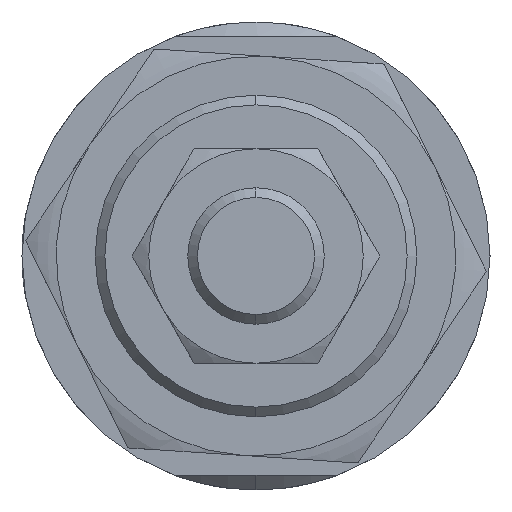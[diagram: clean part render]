
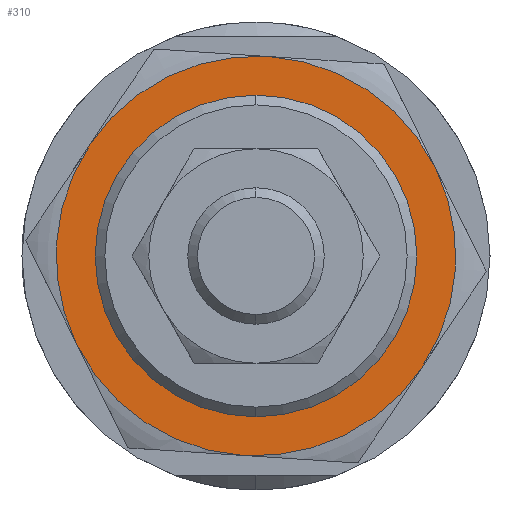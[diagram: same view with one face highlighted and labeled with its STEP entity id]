
A CAD part, left-side view. The second image highlights one B-rep face of the part: STEP entity #310.
In plain terms, the highlighted planar face has unit normal (-1, 0, 0) as drawn and (0, 0, -1) by its records, which use the part's own axes.
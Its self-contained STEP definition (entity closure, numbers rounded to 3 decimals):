
#69 = VERTEX_POINT ( 'NONE', #1063 ) ;
#127 = AXIS2_PLACEMENT_3D ( 'NONE', #2994, #1468, #964 ) ;
#199 = EDGE_LOOP ( 'NONE', ( #2132, #2247, #2349, #1372, #1181, #367 ) ) ;
#310 = ADVANCED_FACE ( 'NONE', ( #1007, #3006 ), #1910, .F. ) ;
#313 = EDGE_CURVE ( 'NONE', #478, #2665, #936, .T. ) ;
#367 = ORIENTED_EDGE ( 'NONE', *, *, #1753, .F. ) ;
#370 = CARTESIAN_POINT ( 'NONE',  ( -10.25, 17.754, -5.5 ) ) ;
#390 = AXIS2_PLACEMENT_3D ( 'NONE', #3166, #1962, #1439 ) ;
#407 = CARTESIAN_POINT ( 'NONE',  ( 15.5, 0., -5.5 ) ) ;
#438 = CIRCLE ( 'NONE', #127, 20.5 ) ;
#463 = ORIENTED_EDGE ( 'NONE', *, *, #1499, .T. ) ;
#478 = VERTEX_POINT ( 'NONE', #1826 ) ;
#518 = CARTESIAN_POINT ( 'NONE',  ( -20.5, 0., -5.5 ) ) ;
#628 = DIRECTION ( 'NONE',  ( 1., 0., 0. ) ) ;
#667 = AXIS2_PLACEMENT_3D ( 'NONE', #2823, #1014, #992 ) ;
#702 = VERTEX_POINT ( 'NONE', #407 ) ;
#719 = EDGE_CURVE ( 'NONE', #1216, #2605, #2931, .T. ) ;
#763 = CIRCLE ( 'NONE', #1214, 20.5 ) ;
#788 = CARTESIAN_POINT ( 'NONE',  ( -10.25, -17.754, -5.5 ) ) ;
#854 = EDGE_CURVE ( 'NONE', #954, #1216, #763, .T. ) ;
#905 = DIRECTION ( 'NONE',  ( 1., 0., 0. ) ) ;
#936 = CIRCLE ( 'NONE', #1553, 20.5 ) ;
#947 = CARTESIAN_POINT ( 'NONE',  ( 0., 0., -5.5 ) ) ;
#954 = VERTEX_POINT ( 'NONE', #370 ) ;
#964 = DIRECTION ( 'NONE',  ( 1., 0., 0. ) ) ;
#992 = DIRECTION ( 'NONE',  ( 1., 0., 0. ) ) ;
#1001 = EDGE_CURVE ( 'NONE', #2605, #69, #2777, .T. ) ;
#1003 = CIRCLE ( 'NONE', #1929, 15.5 ) ;
#1007 = FACE_BOUND ( 'NONE', #2060, .T. ) ;
#1014 = DIRECTION ( 'NONE',  ( 0., 0., 1. ) ) ;
#1063 = CARTESIAN_POINT ( 'NONE',  ( 10.25, -17.754, -5.5 ) ) ;
#1089 = EDGE_CURVE ( 'NONE', #702, #1959, #3155, .T. ) ;
#1118 = EDGE_CURVE ( 'NONE', #69, #478, #438, .T. ) ;
#1181 = ORIENTED_EDGE ( 'NONE', *, *, #854, .F. ) ;
#1187 = ORIENTED_EDGE ( 'NONE', *, *, #1089, .T. ) ;
#1191 = CARTESIAN_POINT ( 'NONE',  ( 0., 0., -5.5 ) ) ;
#1208 = DIRECTION ( 'NONE',  ( 0., 0., 1. ) ) ;
#1214 = AXIS2_PLACEMENT_3D ( 'NONE', #3303, #3034, #1513 ) ;
#1216 = VERTEX_POINT ( 'NONE', #518 ) ;
#1372 = ORIENTED_EDGE ( 'NONE', *, *, #719, .F. ) ;
#1410 = DIRECTION ( 'NONE',  ( 0., 0., 1. ) ) ;
#1432 = DIRECTION ( 'NONE',  ( 1., 0., 0. ) ) ;
#1439 = DIRECTION ( 'NONE',  ( 1., 0., 0. ) ) ;
#1468 = DIRECTION ( 'NONE',  ( 0., 0., 1. ) ) ;
#1499 = EDGE_CURVE ( 'NONE', #1959, #702, #1003, .T. ) ;
#1513 = DIRECTION ( 'NONE',  ( 1., 0., 0. ) ) ;
#1553 = AXIS2_PLACEMENT_3D ( 'NONE', #2937, #1410, #628 ) ;
#1753 = EDGE_CURVE ( 'NONE', #2665, #954, #2492, .T. ) ;
#1770 = AXIS2_PLACEMENT_3D ( 'NONE', #2442, #2943, #905 ) ;
#1826 = CARTESIAN_POINT ( 'NONE',  ( 20.5, 0., -5.5 ) ) ;
#1910 = PLANE ( 'NONE',  #1770 ) ;
#1929 = AXIS2_PLACEMENT_3D ( 'NONE', #2436, #3177, #2692 ) ;
#1932 = CARTESIAN_POINT ( 'NONE',  ( -15.5, 0., -5.5 ) ) ;
#1959 = VERTEX_POINT ( 'NONE', #1932 ) ;
#1962 = DIRECTION ( 'NONE',  ( 0., 0., 1. ) ) ;
#2060 = EDGE_LOOP ( 'NONE', ( #1187, #463 ) ) ;
#2132 = ORIENTED_EDGE ( 'NONE', *, *, #313, .F. ) ;
#2237 = DIRECTION ( 'NONE',  ( 0., 0., 1. ) ) ;
#2247 = ORIENTED_EDGE ( 'NONE', *, *, #1118, .F. ) ;
#2349 = ORIENTED_EDGE ( 'NONE', *, *, #1001, .F. ) ;
#2436 = CARTESIAN_POINT ( 'NONE',  ( 0., 0., -5.5 ) ) ;
#2442 = CARTESIAN_POINT ( 'NONE',  ( 0., 0., -5.5 ) ) ;
#2479 = AXIS2_PLACEMENT_3D ( 'NONE', #1191, #2237, #1432 ) ;
#2492 = CIRCLE ( 'NONE', #667, 20.5 ) ;
#2605 = VERTEX_POINT ( 'NONE', #788 ) ;
#2665 = VERTEX_POINT ( 'NONE', #3116 ) ;
#2692 = DIRECTION ( 'NONE',  ( 1., 0., 0. ) ) ;
#2777 = CIRCLE ( 'NONE', #390, 20.5 ) ;
#2823 = CARTESIAN_POINT ( 'NONE',  ( 0., 0., -5.5 ) ) ;
#2931 = CIRCLE ( 'NONE', #2479, 20.5 ) ;
#2937 = CARTESIAN_POINT ( 'NONE',  ( 0., 0., -5.5 ) ) ;
#2943 = DIRECTION ( 'NONE',  ( 0., 0., 1. ) ) ;
#2994 = CARTESIAN_POINT ( 'NONE',  ( 0., 0., -5.5 ) ) ;
#3006 = FACE_OUTER_BOUND ( 'NONE', #199, .T. ) ;
#3034 = DIRECTION ( 'NONE',  ( 0., 0., 1. ) ) ;
#3116 = CARTESIAN_POINT ( 'NONE',  ( 10.25, 17.754, -5.5 ) ) ;
#3155 = CIRCLE ( 'NONE', #3276, 15.5 ) ;
#3166 = CARTESIAN_POINT ( 'NONE',  ( 0., 0., -5.5 ) ) ;
#3177 = DIRECTION ( 'NONE',  ( 0., 0., 1. ) ) ;
#3237 = DIRECTION ( 'NONE',  ( 1., 0., 0. ) ) ;
#3276 = AXIS2_PLACEMENT_3D ( 'NONE', #947, #1208, #3237 ) ;
#3303 = CARTESIAN_POINT ( 'NONE',  ( 0., 0., -5.5 ) ) ;
